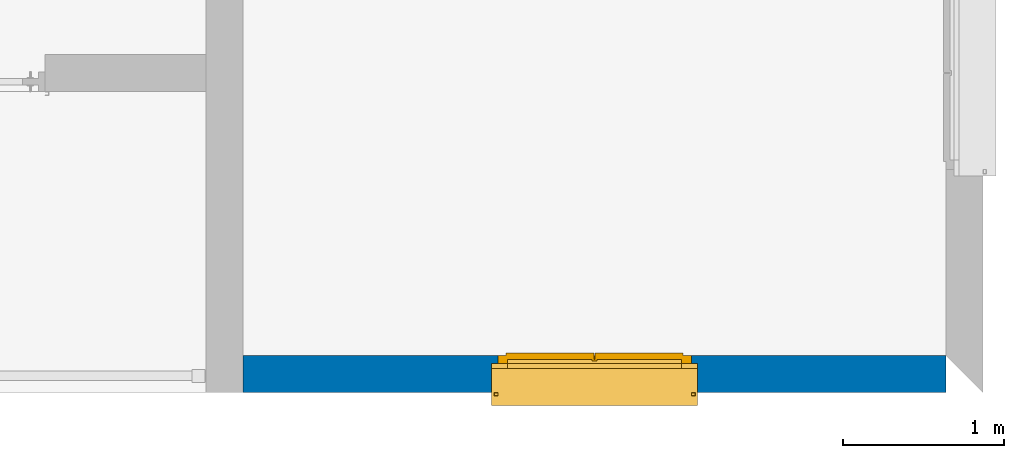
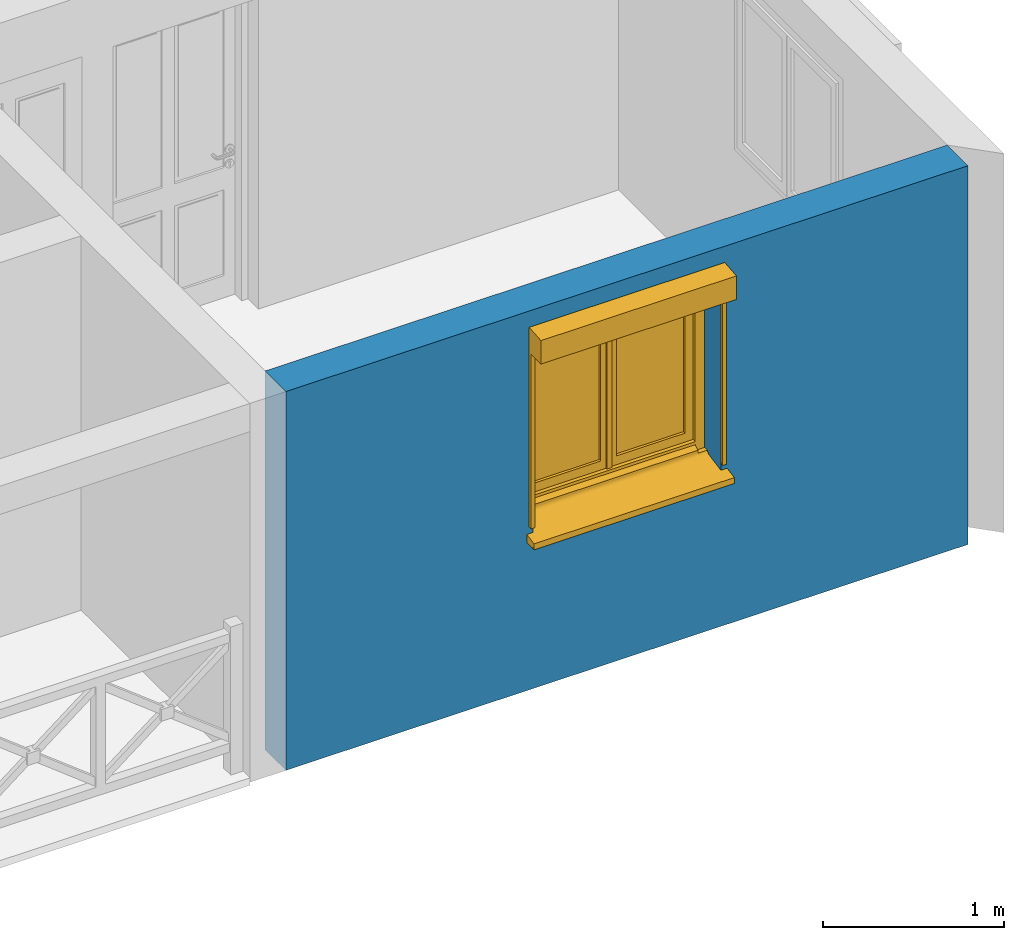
# One storey, part 2 of 17: 1 wall, 1 window, 1 opening.
"""IFC2X3 building model written with IfcOpenShell, lengths in metres."""

from ifc_helpers import new_model, entity, si_unit, converted_unit, derived_unit, money_unit, direction, frame, origin_with_axes, place, context, subcontext, project, spatial, polyline, outline, extrude, boolean, clip, halfspace, faceted_brep, source, transform, mapped, material, type_object, element, fill, save


model = new_model("IFC2X3")

# Units and contexts
model_context = context("Model", 3, precision=1e-05, world=origin_with_axes(), true_north=direction((0.0, 1.0)))
body_context = subcontext(model_context, "Body", "Model", "MODEL_VIEW")
ifc_project = project(units=[si_unit("LENGTHUNIT", "METRE"), si_unit("AREAUNIT", "SQUARE_METRE"), si_unit("VOLUMEUNIT", "CUBIC_METRE"), converted_unit("PLANEANGLEUNIT", "DEGREE", entity("IfcPlaneAngleMeasure", 0.0174532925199), si_unit("PLANEANGLEUNIT", "RADIAN"), dimensions=[0, 0, 0, 0, 0, 0, 0]), si_unit("SOLIDANGLEUNIT", "STERADIAN"), money_unit("CHF"), converted_unit("TIMEUNIT", "Year", entity("IfcTimeMeasure", 31556926.0), si_unit("TIMEUNIT", "SECOND"), dimensions=[0, 0, 1, 0, 0, 0, 0]), si_unit("MASSUNIT", "GRAM", prefix="KILO"), si_unit("THERMODYNAMICTEMPERATUREUNIT", "DEGREE_CELSIUS"), si_unit("LUMINOUSINTENSITYUNIT", "LUMEN"), si_unit("ENERGYUNIT", "JOULE", prefix="MEGA"), derived_unit("THERMALCONDUCTANCEUNIT", [(si_unit("POWERUNIT", "WATT"), 1), (si_unit("LENGTHUNIT", "METRE"), -1), (si_unit("THERMODYNAMICTEMPERATUREUNIT", "KELVIN"), -1)]), derived_unit("SPECIFICHEATCAPACITYUNIT", [(si_unit("ENERGYUNIT", "JOULE"), 1), (si_unit("MASSUNIT", "GRAM", prefix="KILO"), -1), (si_unit("THERMODYNAMICTEMPERATUREUNIT", "KELVIN"), -1)]), derived_unit("MASSDENSITYUNIT", [(si_unit("MASSUNIT", "GRAM", prefix="KILO"), 1), (si_unit("VOLUMEUNIT", "CUBIC_METRE"), -1)])], contexts=[model_context])

# Site, building, storey
site_placement = place(None, origin_with_axes())
site = spatial("IfcSite", under=ifc_project, at=site_placement, Name="Site", CompositionType="ELEMENT")
building_placement = place(site_placement, origin_with_axes())
building = spatial("IfcBuilding", under=site, at=building_placement, Name="Bâtiment", CompositionType="ELEMENT")
storey_placement = place(building_placement, frame((0.0, 0.0, 3.0), z_axis=(0.0, 0.0, 1.0), x_axis=(1.0, 0.0, 0.0)))
storey = spatial("IfcBuildingStorey", under=building, at=storey_placement, Name="RDJ", CompositionType="ELEMENT", Elevation=3.0)

# Wall, opening, window
ifc_material = material(Name="Hachure solide 2628782308")
wall_type = type_object("IfcWallType", Name="Hachure solide 2628782308 230", PredefinedType="NOTDEFINED")
wall_placement = place(storey_placement, frame((91.9735190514, 7.18034105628, -3.05), z_axis=(0.0, 0.0, 1.0), x_axis=(1.0, 0.0, 0.0)))
wall = element("IfcWall", 1, at=wall_placement, inside=storey, type_object=wall_type, material=ifc_material, Name="MurExt-009", context=body_context, shape_type="CSG", body=[
    boolean("DIFFERENCE", boolean("DIFFERENCE", clip(extrude(outline(polyline([(-0.23, 0.0), (4.59, 0.0), (4.59, 0.23), (-0.23, 0.23), (-0.23, 0.0)])), origin_with_axes(), (0.0, 0.0, 1.0), 2.56), halfspace(frame((2.40271538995, 0.0, 4.16162513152), z_axis=(-0.5, 0.0, -0.866025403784), x_axis=(0.0, 1.0, 0.0)), True)), faceted_brep([(0.0, 0.0, 2.56), (0.0, 0.23, 2.56), (-0.23, 0.23, 2.56), (-0.23, 0.0, 2.56), (0.0, 0.23, 0.0), (0.0, 0.0, 0.0), (-0.23, 0.23, 0.0), (-0.23, 0.0, 0.0)], [[[0, 1, 2, 3]], [[4, 1, 0, 5]], [[1, 4, 6, 2]], [[2, 6, 7, 3]], [[5, 0, 3, 7]], [[4, 5, 7, 6]]])), faceted_brep([(4.36, 0.23, 0.0), (4.36, 0.23, 2.56), (4.59, 0.23, 2.56), (4.59, 0.23, 0.0), (4.36, 0.0, 2.56), (4.36, 0.0, 0.0), (4.59, 0.0, 2.56), (4.59, 0.0, 0.0)], [[[0, 1, 2, 3]], [[4, 1, 0, 5]], [[1, 4, 6, 2]], [[6, 7, 3, 2]], [[5, 0, 3, 7]], [[4, 5, 7, 6]]])),
])
opening_placement = place(wall_placement, frame((2.18, 0.0, 1.1), z_axis=(0.0, 0.0, 1.0), x_axis=(1.0, 0.0, 0.0)))
opening = element("IfcOpeningElement", 2, at=opening_placement, cuts=wall, Name="Fen-013", context=body_context, shape_type="SweptSolid", body=[
    extrude(outline(polyline([(0.6, 0.0), (-0.6, 0.0), (-0.6, -0.9), (0.0, 0.0), (0.6, -0.9), (0.6, 0.0)])), frame((0.0, 0.23, 0.0), z_axis=(0.0, -1.0, 0.0), x_axis=(-1.0, 0.0, 0.0)), (0.0, 0.0, 1.0), 0.46),
    extrude(outline(polyline([(-0.6, -1.2), (0.6, -1.2), (0.6, 0.0), (-0.6, 0.0), (-0.6, -1.2)])), frame((0.0, 0.23, 0.0), z_axis=(0.0, -1.0, 0.0), x_axis=(-1.0, 0.0, 0.0)), (0.0, 0.0, 1.0), 0.46),
    extrude(outline(polyline([(0.6, -0.1), (0.6, 0.001), (-0.6, 0.001), (-0.6, -0.1), (0.6, -0.1)])), frame((0.0, 0.18, 0.0), z_axis=(0.0, 1.0, 0.0), x_axis=(-1.0, 0.0, 0.0)), (0.0, 0.0, -1.0), 0.23),
])
window_style = type_object("IfcWindowStyle", Name="Fenêtre 2v", ConstructionType="NOTDEFINED", OperationType="NOTDEFINED", ParameterTakesPrecedence=False, Sizeable=False)
shared_shape = source(origin_with_axes(), body_context, "Body", "Brep", [
    faceted_brep([(-0.6, -0.23, 0.0), (-0.6, -0.18, 0.0), (-0.54, -0.18, 0.0), (-0.54, -0.23, 0.0), (-0.6, -0.23, 1.2), (-0.6, -0.18, 1.2), (0.6, -0.18, 1.2), (0.6, -0.18, 0.0), (0.54, -0.18, 0.0), (0.54, -0.18, 1.14), (-0.54, -0.18, 1.14), (-0.54, -0.23, 1.14), (0.54, -0.23, 1.14), (0.54, -0.23, 0.0), (0.6, -0.23, 0.0), (0.6, -0.23, 1.2)], [[[0, 1, 2, 3]], [[4, 5, 1, 0]], [[1, 5, 6, 7, 8, 9, 10, 2]], [[3, 2, 10, 11]], [[0, 3, 11, 12, 13, 14, 15, 4]], [[15, 6, 5, 4]], [[14, 7, 6, 15]], [[13, 8, 7, 14]], [[12, 9, 8, 13]], [[11, 10, 9, 12]]]),
    faceted_brep([(0.54, -0.23, 0.0), (0.54, -0.18, 0.0), (0.54, -0.18, 0.06), (0.54, -0.23, 0.06), (-0.54, -0.23, 0.0), (-0.54, -0.18, 0.0), (-0.54, -0.18, 0.06), (-0.54, -0.23, 0.06)], [[[0, 1, 2, 3]], [[4, 5, 1, 0]], [[1, 5, 6, 2]], [[3, 2, 6, 7]], [[0, 3, 7, 4]], [[7, 6, 5, 4]]]),
    faceted_brep([(0.54, -0.15, 0.0), (0.54, -0.15, 0.02), (0.54, -0.18, 0.04), (0.54, -0.18, 0.0), (-0.54, -0.15, 0.0), (-0.54, -0.15, 0.02), (-0.54, -0.18, 0.04), (-0.54, -0.18, 0.0)], [[[0, 1, 2, 3]], [[4, 5, 1, 0]], [[1, 5, 6, 2]], [[3, 2, 6, 7]], [[0, 3, 7, 4]], [[7, 6, 5, 4]]]),
    faceted_brep([(-0.05, -0.2275, 0.12), (-0.05, -0.2275, 1.0899), (-0.49, -0.2275, 1.0899), (-0.49, -0.2275, 0.12), (-0.05, -0.2225, 1.0899), (-0.05, -0.2225, 0.12), (-0.49, -0.2225, 1.0899), (-0.49, -0.2225, 0.12)], [[[0, 1, 2, 3]], [[4, 1, 0, 5]], [[1, 4, 6, 2]], [[6, 7, 3, 2]], [[5, 0, 3, 7]], [[4, 5, 7, 6]]]),
    faceted_brep([(0.05, -0.2225, 1.0899), (0.05, -0.2275, 1.0899), (0.49, -0.2275, 1.0899), (0.49, -0.2225, 1.0899), (0.05, -0.2275, 0.12), (0.05, -0.2225, 0.12), (0.49, -0.2275, 0.12), (0.49, -0.2225, 0.12)], [[[0, 1, 2, 3]], [[4, 1, 0, 5]], [[1, 4, 6, 2]], [[7, 3, 2, 6]], [[5, 0, 3, 7]], [[4, 5, 7, 6]]]),
    faceted_brep([(0.05, -0.245, 1.091), (0.05, -0.245, 1.0899), (0.49, -0.245, 1.0899), (0.49, -0.245, 0.12), (0.548, -0.245, 0.12), (0.548, -0.245, 1.1479), (-0.548, -0.245, 1.1479), (-0.548, -0.245, 0.12), (-0.49, -0.245, 0.12), (-0.49, -0.245, 1.0899), (-0.05, -0.245, 1.0899), (-0.05, -0.245, 1.091), (-0.0025, -0.245, 1.091), (-0.0025, -0.245, 1.14), (0.0025, -0.245, 1.14), (0.0025, -0.245, 1.091), (0.05, -0.205, 1.091), (0.05, -0.205, 1.0899), (0.49, -0.205, 1.0899), (0.49, -0.205, 0.12), (0.54, -0.205, 0.12), (0.54, -0.23, 0.12), (0.55, -0.23, 0.12), (0.55, -0.23, 1.1499), (-0.55, -0.23, 1.1499), (-0.55, -0.23, 0.12), (-0.54, -0.205, 0.12), (-0.49, -0.205, 0.12), (-0.54, -0.23, 0.12), (-0.49, -0.205, 1.0899), (-0.05, -0.205, 1.0899), (-0.05, -0.205, 1.091), (-0.0025, -0.205, 1.091), (-0.0025, -0.205, 1.1399), (-0.0025, -0.23, 1.1399), (-0.0025, -0.23, 1.14), (0.0025, -0.23, 1.14), (0.0025, -0.205, 1.091), (0.0025, -0.23, 1.1399), (0.0025, -0.205, 1.1399), (0.54, -0.205, 1.1399), (0.54, -0.23, 1.1399), (-0.54, -0.23, 1.1399), (-0.54, -0.205, 1.1399)], [[[0, 1, 2, 3, 4, 5, 6, 7, 8, 9, 10, 11, 12, 13, 14, 15]], [[1, 0, 16, 17]], [[1, 17, 18, 2]], [[18, 19, 3, 2]], [[20, 21, 22, 4, 3, 19]], [[5, 4, 22, 23]], [[6, 5, 23, 24]], [[7, 6, 24, 25]], [[26, 27, 8, 7, 25, 28]], [[27, 29, 9, 8]], [[30, 10, 9, 29]], [[11, 10, 30, 31]], [[32, 12, 11, 31]], [[12, 32, 33, 34, 35, 13]], [[13, 35, 36, 14]], [[37, 15, 14, 36, 38, 39]], [[0, 15, 37, 16]], [[16, 37, 39, 40, 20, 19, 18, 17]], [[41, 21, 20, 40]], [[41, 38, 36, 35, 34, 42, 28, 25, 24, 23, 22, 21]], [[31, 30, 29, 27, 26, 43, 33, 32]], [[28, 42, 43, 26]], [[33, 43, 42, 34]], [[38, 41, 40, 39]]]),
    faceted_brep([(0.54, -0.23, 0.12), (0.54, -0.245, 0.12), (0.548, -0.245, 0.12), (0.55, -0.23, 0.12), (0.54, -0.245, 0.06), (0.54, -0.23, 0.06), (0.0025, -0.245, 0.06), (0.0025, -0.245, 0.052), (0.548, -0.245, 0.052), (0.55, -0.23, 0.05), (0.0025, -0.23, 0.05), (0.0025, -0.23, 0.06)], [[[0, 1, 2, 3]], [[4, 1, 0, 5]], [[4, 6, 7, 8, 2, 1]], [[2, 8, 9, 3]], [[5, 0, 3, 9, 10, 11]], [[6, 4, 5, 11]], [[6, 11, 10, 7]], [[10, 9, 8, 7]]]),
    faceted_brep([(-0.0025, -0.23, 0.06), (-0.0025, -0.245, 0.06), (-0.0025, -0.245, 0.052), (-0.0025, -0.23, 0.05), (-0.54, -0.245, 0.06), (-0.54, -0.23, 0.06), (-0.54, -0.245, 0.12), (-0.548, -0.245, 0.12), (-0.548, -0.245, 0.052), (-0.55, -0.23, 0.05), (-0.55, -0.23, 0.12), (-0.54, -0.23, 0.12)], [[[0, 1, 2, 3]], [[4, 1, 0, 5]], [[4, 6, 7, 8, 2, 1]], [[2, 8, 9, 3]], [[5, 0, 3, 9, 10, 11]], [[11, 6, 4, 5]], [[6, 11, 10, 7]], [[8, 7, 10, 9]]]),
    faceted_brep([(0.05, -0.205, 0.12), (0.05, -0.245, 0.12), (0.49, -0.245, 0.12), (0.49, -0.205, 0.12), (0.05, -0.245, 0.119), (0.05, -0.205, 0.119), (0.0025, -0.245, 0.119), (0.0025, -0.245, 0.06), (0.54, -0.245, 0.06), (0.54, -0.245, 0.12), (0.54, -0.205, 0.12), (0.54, -0.205, 0.06), (0.0025, -0.205, 0.06), (0.0025, -0.205, 0.119)], [[[0, 1, 2, 3]], [[4, 1, 0, 5]], [[4, 6, 7, 8, 9, 2, 1]], [[3, 2, 9, 10]], [[5, 0, 3, 10, 11, 12, 13]], [[6, 4, 5, 13]], [[6, 13, 12, 7]], [[12, 11, 8, 7]], [[10, 9, 8, 11]]]),
    faceted_brep([(-0.0025, -0.205, 0.119), (-0.0025, -0.245, 0.119), (-0.0025, -0.245, 0.06), (-0.0025, -0.205, 0.06), (-0.05, -0.245, 0.119), (-0.05, -0.205, 0.119), (-0.05, -0.245, 0.12), (-0.49, -0.245, 0.12), (-0.54, -0.245, 0.12), (-0.54, -0.245, 0.06), (-0.54, -0.205, 0.06), (-0.54, -0.205, 0.12), (-0.49, -0.205, 0.12), (-0.05, -0.205, 0.12)], [[[0, 1, 2, 3]], [[4, 1, 0, 5]], [[4, 6, 7, 8, 9, 2, 1]], [[2, 9, 10, 3]], [[5, 0, 3, 10, 11, 12, 13]], [[13, 6, 4, 5]], [[6, 13, 12, 11, 8, 7]], [[10, 9, 8, 11]]]),
    faceted_brep([(-0.0025, -0.245, 0.119), (-0.0025, -0.245, 1.091), (-0.05, -0.245, 1.091), (-0.05, -0.245, 0.119), (-0.0025, -0.205, 1.091), (-0.0025, -0.205, 0.119), (-0.05, -0.205, 1.091), (-0.05, -0.205, 0.119)], [[[0, 1, 2, 3]], [[4, 1, 0, 5]], [[1, 4, 6, 2]], [[6, 7, 3, 2]], [[5, 0, 3, 7]], [[4, 5, 7, 6]]]),
    faceted_brep([(0.0025, -0.205, 1.091), (0.0025, -0.245, 1.091), (0.05, -0.245, 1.091), (0.05, -0.205, 1.091), (0.0025, -0.245, 0.119), (0.0025, -0.205, 0.119), (0.05, -0.245, 0.119), (0.05, -0.205, 0.119)], [[[0, 1, 2, 3]], [[4, 1, 0, 5]], [[1, 4, 6, 2]], [[7, 3, 2, 6]], [[5, 0, 3, 7]], [[4, 5, 7, 6]]]),
    faceted_brep([(-0.0166666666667, -0.205, 0.06), (-0.0166666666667, -0.195, 0.06), (0.0166666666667, -0.195, 0.06), (0.0166666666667, -0.205, 0.06), (-0.0166666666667, -0.205, 1.14), (-0.0166666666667, -0.195, 1.14), (0.0166666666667, -0.195, 1.14), (0.0166666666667, -0.205, 1.14)], [[[0, 1, 2, 3]], [[4, 5, 1, 0]], [[1, 5, 6, 2]], [[3, 2, 6, 7]], [[0, 3, 7, 4]], [[7, 6, 5, 4]]]),
    faceted_brep([(-0.64, -0.18, -0.1), (0.64, -0.18, -0.1), (0.64, -0.18, 0.0), (-0.64, -0.18, 0.0), (-0.64, 0.06, -0.1), (0.64, 0.06, -0.1), (0.64, 0.06, -0.094), (0.64, 0.07, -0.094), (0.64, 0.07, -0.1), (0.64, 0.08, -0.1), (0.64, 0.08, -0.06), (0.64, -0.13, -0.02), (0.64, -0.134126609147, -0.0188422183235), (0.64, -0.13799671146, -0.0170005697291), (0.64, -0.141497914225, -0.014528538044), (0.64, -0.144528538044, -0.0114979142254), (0.64, -0.147000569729, -0.00799671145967), (0.64, -0.148842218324, -0.00412660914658), (0.64, -0.15, 0.0), (-0.64, -0.15, 0.0), (-0.64, -0.148842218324, -0.00412660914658), (-0.64, -0.147000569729, -0.00799671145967), (-0.64, -0.144528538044, -0.0114979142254), (-0.64, -0.141497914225, -0.014528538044), (-0.64, -0.13799671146, -0.0170005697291), (-0.64, -0.134126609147, -0.0188422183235), (-0.64, -0.13, -0.02), (-0.64, 0.08, -0.06), (-0.64, 0.08, -0.1), (-0.64, 0.07, -0.1), (-0.64, 0.07, -0.094), (-0.64, 0.06, -0.094)], [[[0, 1, 2, 3]], [[4, 5, 1, 0]], [[1, 5, 6, 7, 8, 9, 10, 11, 12, 13, 14, 15, 16, 17, 18, 2]], [[3, 2, 18, 19]], [[0, 3, 19, 20, 21, 22, 23, 24, 25, 26, 27, 28, 29, 30, 31, 4]], [[31, 6, 5, 4]], [[30, 7, 6, 31]], [[29, 8, 7, 30]], [[28, 9, 8, 29]], [[27, 10, 9, 28]], [[26, 11, 10, 27]], [[25, 12, 11, 26]], [[24, 13, 12, 25]], [[23, 14, 13, 24]], [[22, 15, 14, 23]], [[21, 16, 15, 22]], [[20, 17, 16, 21]], [[19, 18, 17, 20]]]),
    faceted_brep([(0.625, 0.0, 1.35), (0.622, 0.0, 1.35), (0.622, 0.0, 1.2), (0.625, 0.0, 1.2), (0.625, 0.13, 1.33862647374), (0.622, 0.13, 1.33862647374), (0.622, 0.13, 1.18), (0.622, 0.127, 1.18), (0.622, 0.021, 1.18), (0.622, 0.021, 1.2), (0.625, 0.021, 1.2), (0.625, 0.021, 1.18), (0.625, 0.127, 1.18), (0.625, 0.13, 1.18)], [[[0, 1, 2, 3]], [[4, 5, 1, 0]], [[1, 5, 6, 7, 8, 9, 2]], [[3, 2, 9, 10]], [[0, 3, 10, 11, 12, 13, 4]], [[13, 6, 5, 4]], [[12, 7, 6, 13]], [[11, 8, 7, 12]], [[10, 9, 8, 11]]]),
    faceted_brep([(-0.622, 0.018, 1.203), (0.622, 0.018, 1.203), (0.622, 0.127, 1.203), (-0.622, 0.127, 1.203), (0.622, 0.018, 1.2), (-0.622, 0.018, 1.2), (0.622, 0.127, 1.2), (0.622, 0.127, 1.18), (0.622, 0.13, 1.18), (0.622, 0.13, 1.33862647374), (0.622, 0.0, 1.35), (0.622, 0.0, 1.34698854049), (0.622, 0.127, 1.33587748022), (-0.622, 0.127, 1.33587748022), (-0.622, 0.0, 1.34698854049), (-0.622, 0.0, 1.35), (-0.622, 0.13, 1.33862647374), (-0.622, 0.13, 1.18), (-0.622, 0.127, 1.18), (-0.622, 0.127, 1.2)], [[[0, 1, 2, 3]], [[4, 1, 0, 5]], [[1, 4, 6, 7, 8, 9, 10, 11, 12, 2]], [[12, 13, 3, 2]], [[5, 0, 3, 13, 14, 15, 16, 17, 18, 19]], [[4, 5, 19, 6]], [[18, 7, 6, 19]], [[17, 8, 7, 18]], [[16, 9, 8, 17]], [[15, 10, 9, 16]], [[11, 10, 15, 14]], [[11, 14, 13, 12]]]),
    faceted_brep([(-0.622, 0.0, 1.35), (-0.625, 0.0, 1.35), (-0.625, 0.0, 1.2), (-0.622, 0.0, 1.2), (-0.622, 0.13, 1.33862647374), (-0.625, 0.13, 1.33862647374), (-0.625, 0.13, 1.18), (-0.625, 0.127, 1.18), (-0.625, 0.021, 1.18), (-0.625, 0.021, 1.2), (-0.622, 0.021, 1.2), (-0.622, 0.021, 1.18), (-0.622, 0.127, 1.18), (-0.622, 0.13, 1.18)], [[[0, 1, 2, 3]], [[4, 5, 1, 0]], [[1, 5, 6, 7, 8, 9, 2]], [[3, 2, 9, 10]], [[0, 3, 10, 11, 12, 13, 4]], [[13, 6, 5, 4]], [[12, 7, 6, 13]], [[11, 8, 7, 12]], [[10, 9, 8, 11]]]),
    faceted_brep([(0.6, 0.021, 1.18), (0.625, 0.021, 1.18), (0.625, 0.021, 0.0), (0.6, 0.021, 0.0), (0.6, 0.018, 1.18), (0.622, 0.018, 1.18), (0.622, 0.003, 1.18), (0.6, 0.003, 1.18), (0.6, 0.0, 1.18), (0.625, 0.0, 1.18), (0.625, 0.0, 0.0), (0.6, 0.0, 0.0), (0.6, 0.003, 0.0), (0.622, 0.003, 0.0), (0.622, 0.018, 0.0), (0.6, 0.018, 0.0)], [[[0, 1, 2, 3]], [[0, 4, 5, 6, 7, 8, 9, 1]], [[1, 9, 10, 2]], [[3, 2, 10, 11, 12, 13, 14, 15]], [[4, 0, 3, 15]], [[5, 4, 15, 14]], [[6, 5, 14, 13]], [[7, 6, 13, 12]], [[8, 7, 12, 11]], [[9, 8, 11, 10]]]),
    faceted_brep([(0.6, 0.003, 0.003), (0.6, 0.018, 0.003), (0.6, 0.018, 0.0), (0.6, 0.003, 0.0), (0.622, 0.003, 0.003), (0.622, 0.018, 0.003), (0.622, 0.018, 0.0), (0.622, 0.003, 0.0)], [[[0, 1, 2, 3]], [[0, 4, 5, 1]], [[1, 5, 6, 2]], [[3, 2, 6, 7]], [[4, 0, 3, 7]], [[5, 4, 7, 6]]]),
    faceted_brep([(0.6, 0.021, 1.2), (0.625, 0.021, 1.2), (0.625, 0.021, 1.18), (0.6, 0.021, 1.18), (0.6, 0.018, 1.2), (0.622, 0.018, 1.2), (0.622, 0.003, 1.2), (0.6, 0.003, 1.2), (0.6, 0.0, 1.2), (0.625, 0.0, 1.2), (0.625, 0.0, 1.18), (0.6, 0.0, 1.18), (0.6, 0.003, 1.18), (0.622, 0.003, 1.18), (0.622, 0.018, 1.18), (0.6, 0.018, 1.18)], [[[0, 1, 2, 3]], [[0, 4, 5, 6, 7, 8, 9, 1]], [[1, 9, 10, 2]], [[3, 2, 10, 11, 12, 13, 14, 15]], [[4, 0, 3, 15]], [[5, 4, 15, 14]], [[6, 5, 14, 13]], [[7, 6, 13, 12]], [[8, 7, 12, 11]], [[9, 8, 11, 10]]]),
    faceted_brep([(-0.6, 0.021, 1.18), (-0.6, 0.021, 0.0), (-0.625, 0.021, 0.0), (-0.625, 0.021, 1.18), (-0.6, 0.018, 1.18), (-0.6, 0.018, 0.0), (-0.622, 0.018, 0.0), (-0.622, 0.003, 0.0), (-0.6, 0.003, 0.0), (-0.6, 0.0, 0.0), (-0.625, 0.0, 0.0), (-0.625, 0.0, 1.18), (-0.6, 0.0, 1.18), (-0.6, 0.003, 1.18), (-0.622, 0.003, 1.18), (-0.622, 0.018, 1.18)], [[[0, 1, 2, 3]], [[4, 5, 1, 0]], [[1, 5, 6, 7, 8, 9, 10, 2]], [[3, 2, 10, 11]], [[0, 3, 11, 12, 13, 14, 15, 4]], [[15, 6, 5, 4]], [[14, 7, 6, 15]], [[13, 8, 7, 14]], [[12, 9, 8, 13]], [[11, 10, 9, 12]]]),
    faceted_brep([(-0.6, 0.003, 0.003), (-0.6, 0.003, 0.0), (-0.6, 0.018, 0.0), (-0.6, 0.018, 0.003), (-0.622, 0.003, 0.003), (-0.622, 0.003, 0.0), (-0.622, 0.018, 0.0), (-0.622, 0.018, 0.003)], [[[0, 1, 2, 3]], [[4, 5, 1, 0]], [[1, 5, 6, 2]], [[3, 2, 6, 7]], [[0, 3, 7, 4]], [[7, 6, 5, 4]]]),
    faceted_brep([(-0.6, 0.021, 1.2), (-0.6, 0.021, 1.18), (-0.625, 0.021, 1.18), (-0.625, 0.021, 1.2), (-0.6, 0.018, 1.2), (-0.6, 0.018, 1.18), (-0.622, 0.018, 1.18), (-0.622, 0.003, 1.18), (-0.6, 0.003, 1.18), (-0.6, 0.0, 1.18), (-0.625, 0.0, 1.18), (-0.625, 0.0, 1.2), (-0.6, 0.0, 1.2), (-0.6, 0.003, 1.2), (-0.622, 0.003, 1.2), (-0.622, 0.018, 1.2)], [[[0, 1, 2, 3]], [[4, 5, 1, 0]], [[1, 5, 6, 7, 8, 9, 10, 2]], [[3, 2, 10, 11]], [[0, 3, 11, 12, 13, 14, 15, 4]], [[15, 6, 5, 4]], [[14, 7, 6, 15]], [[13, 8, 7, 14]], [[12, 9, 8, 13]], [[11, 10, 9, 12]]]),
    faceted_brep([(0.622, 0.0113089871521, 1.26006647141), (0.622, 0.0137113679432, 1.25110066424), (0.622, 0.0176341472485, 1.24268823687), (0.622, 0.0229581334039, 1.23508479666), (0.622, 0.0295215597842, 1.22852137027), (0.622, 0.037125, 1.22319738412), (0.622, 0.0455374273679, 1.21927460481), (0.622, 0.0545032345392, 1.21687222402), (0.622, 0.06375, 1.21606323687), (0.622, 0.0729967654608, 1.21687222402), (0.622, 0.0819625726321, 1.21927460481), (0.622, 0.090375, 1.22319738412), (0.622, 0.0979784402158, 1.22852137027), (0.622, 0.104541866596, 1.23508479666), (0.622, 0.109865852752, 1.24268823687), (0.622, 0.113788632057, 1.25110066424), (0.622, 0.116191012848, 1.26006647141), (0.622, 0.117, 1.26931323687), (0.622, 0.116191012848, 1.27856000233), (0.622, 0.113788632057, 1.2875258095), (0.622, 0.109865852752, 1.29593823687), (0.622, 0.104541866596, 1.30354167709), (0.622, 0.0979784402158, 1.31010510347), (0.622, 0.090375, 1.31542908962), (0.622, 0.0819625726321, 1.31935186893), (0.622, 0.0729967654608, 1.32175424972), (0.622, 0.06375, 1.32256323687), (0.622, 0.0545032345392, 1.32175424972), (0.622, 0.0455374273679, 1.31935186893), (0.622, 0.037125, 1.31542908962), (0.622, 0.0295215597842, 1.31010510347), (0.622, 0.0229581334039, 1.30354167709), (0.622, 0.0176341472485, 1.29593823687), (0.622, 0.0137113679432, 1.2875258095), (0.622, 0.0113089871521, 1.27856000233), (0.622, 0.0105, 1.26931323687), (-0.622, 0.0113089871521, 1.26006647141), (-0.622, 0.0137113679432, 1.25110066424), (-0.622, 0.0176341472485, 1.24268823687), (-0.622, 0.0229581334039, 1.23508479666), (-0.622, 0.0295215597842, 1.22852137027), (-0.622, 0.037125, 1.22319738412), (-0.622, 0.0455374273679, 1.21927460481), (-0.622, 0.0545032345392, 1.21687222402), (-0.622, 0.06375, 1.21606323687), (-0.622, 0.0729967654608, 1.21687222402), (-0.622, 0.0819625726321, 1.21927460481), (-0.622, 0.090375, 1.22319738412), (-0.622, 0.0979784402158, 1.22852137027), (-0.622, 0.104541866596, 1.23508479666), (-0.622, 0.109865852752, 1.24268823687), (-0.622, 0.113788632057, 1.25110066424), (-0.622, 0.116191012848, 1.26006647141), (-0.622, 0.117, 1.26931323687), (-0.622, 0.116191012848, 1.27856000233), (-0.622, 0.113788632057, 1.2875258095), (-0.622, 0.109865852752, 1.29593823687), (-0.622, 0.104541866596, 1.30354167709), (-0.622, 0.0979784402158, 1.31010510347), (-0.622, 0.090375, 1.31542908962), (-0.622, 0.0819625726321, 1.31935186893), (-0.622, 0.0729967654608, 1.32175424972), (-0.622, 0.06375, 1.32256323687), (-0.622, 0.0545032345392, 1.32175424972), (-0.622, 0.0455374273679, 1.31935186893), (-0.622, 0.037125, 1.31542908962), (-0.622, 0.0295215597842, 1.31010510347), (-0.622, 0.0229581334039, 1.30354167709), (-0.622, 0.0176341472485, 1.29593823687), (-0.622, 0.0137113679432, 1.2875258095), (-0.622, 0.0113089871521, 1.27856000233), (-0.622, 0.0105, 1.26931323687)], [[[0, 1, 2, 3, 4, 5, 6, 7, 8, 9, 10, 11, 12, 13, 14, 15, 16, 17, 18, 19, 20, 21, 22, 23, 24, 25, 26, 27, 28, 29, 30, 31, 32, 33, 34, 35]], [[1, 0, 36, 37]], [[2, 1, 37, 38]], [[3, 2, 38, 39]], [[4, 3, 39, 40]], [[5, 4, 40, 41]], [[6, 5, 41, 42]], [[7, 6, 42, 43]], [[8, 7, 43, 44]], [[9, 8, 44, 45]], [[10, 9, 45, 46]], [[11, 10, 46, 47]], [[12, 11, 47, 48]], [[13, 12, 48, 49]], [[14, 13, 49, 50]], [[15, 14, 50, 51]], [[16, 15, 51, 52]], [[17, 16, 52, 53]], [[18, 17, 53, 54]], [[19, 18, 54, 55]], [[20, 19, 55, 56]], [[21, 20, 56, 57]], [[22, 21, 57, 58]], [[23, 22, 58, 59]], [[24, 23, 59, 60]], [[25, 24, 60, 61]], [[26, 25, 61, 62]], [[27, 26, 62, 63]], [[28, 27, 63, 64]], [[29, 28, 64, 65]], [[30, 29, 65, 66]], [[31, 30, 66, 67]], [[32, 31, 67, 68]], [[33, 32, 68, 69]], [[34, 33, 69, 70]], [[35, 34, 70, 71]], [[0, 35, 71, 36]], [[36, 71, 70, 69, 68, 67, 66, 65, 64, 63, 62, 61, 60, 59, 58, 57, 56, 55, 54, 53, 52, 51, 50, 49, 48, 47, 46, 45, 44, 43, 42, 41, 40, 39, 38, 37]]]),
    faceted_brep([(-0.622, 0.00966666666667, 1.26931323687), (-0.622, 0.00966666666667, 1.26666666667), (0.622, 0.00966666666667, 1.26666666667), (0.622, 0.00966666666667, 1.26931323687), (-0.622, 0.0146666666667, 1.26931323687), (-0.622, 0.0146666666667, 1.26666666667), (-0.622, 0.013, 1.25), (-0.622, 0.008, 1.25), (0.622, 0.008, 1.25), (0.622, 0.013, 1.25), (0.622, 0.0146666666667, 1.26666666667), (0.622, 0.0146666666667, 1.26931323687)], [[[0, 1, 2, 3]], [[4, 5, 6, 7, 1, 0]], [[2, 1, 7, 8]], [[3, 2, 8, 9, 10, 11]], [[3, 11, 4, 0]], [[10, 5, 4, 11]], [[9, 6, 5, 10]], [[8, 7, 6, 9]]]),
    faceted_brep([(0.622, 0.008, 1.25), (-0.622, 0.008, 1.25), (-0.622, 0.00966666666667, 1.23333333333), (0.622, 0.00966666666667, 1.23333333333), (0.622, 0.013, 1.25), (-0.622, 0.013, 1.25), (-0.622, 0.0146666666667, 1.23333333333), (-0.622, 0.0146666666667, 1.21666666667), (-0.622, 0.013, 1.2), (-0.622, 0.008, 1.2), (-0.622, 0.00966666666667, 1.21666666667), (0.622, 0.00966666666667, 1.21666666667), (0.622, 0.008, 1.2), (0.622, 0.013, 1.2), (0.622, 0.0146666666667, 1.21666666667), (0.622, 0.0146666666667, 1.23333333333)], [[[0, 1, 2, 3]], [[4, 5, 1, 0]], [[1, 5, 6, 7, 8, 9, 10, 2]], [[3, 2, 10, 11]], [[0, 3, 11, 12, 13, 14, 15, 4]], [[15, 6, 5, 4]], [[14, 7, 6, 15]], [[13, 8, 7, 14]], [[12, 9, 8, 13]], [[11, 10, 9, 12]]]),
])
window_placement = place(opening_placement, frame((0.6, 0.0, 0.0), z_axis=(0.0, 0.0, 1.0), x_axis=(-1.0, 0.0, 0.0)))
window = element("IfcWindow", 3, at=window_placement, inside=storey, type_object=window_style, Name="Fen-013", OverallHeight=1.2, OverallWidth=1.2, context=body_context, shape_type="MappedRepresentation", body=[
    mapped(shared_shape, transform((0.6, 0.0, 0.0))),
])
fill(opening, window)

save(model, "model.ifc")
